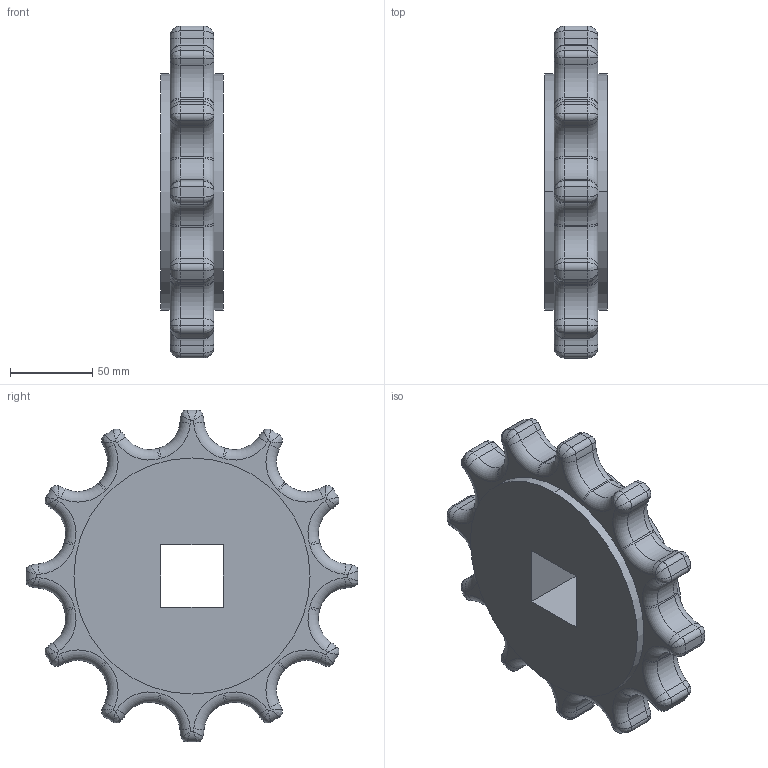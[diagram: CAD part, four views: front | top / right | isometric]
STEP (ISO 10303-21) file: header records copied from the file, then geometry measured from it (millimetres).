
FILE_DESCRIPTION((''),'2;1');
FILE_NAME('S3000_SPROCKET_77X15_40_SQ','2008-12-12T',('jmumphre'),(''),'PRO/ENGINEER BY PARAMETRIC TECHNOLOGY CORPORATION, 2008150','PRO/ENGINEER BY PARAMETRIC TECHNOLOGY CORPORATION, 2008150','');
FILE_SCHEMA(('CONFIG_CONTROL_DESIGN'));
Length unit declared in the file: inch
Products named in the file (1): S3000_SPROCKET_77X15_40_SQ
Bounding box: 38.1 x 202.28 x 202.28 mm (x, y, z)
Volume: 778930.7 mm3; surface area: 75491.6 mm2
Topology: 1 solids, 1 shells, 300 faces, 648 edges, 352 vertices
Faces by surface type: torus 120, cylinder 112, bspline 48, plane 20
Entity records: 11100 total; most frequent: CARTESIAN_POINT 4768, DIRECTION 1400, ORIENTED_EDGE 1296, EDGE_CURVE 648, AXIS2_PLACEMENT_3D 620, CIRCLE 368, VERTEX_POINT 352, EDGE_LOOP 304
